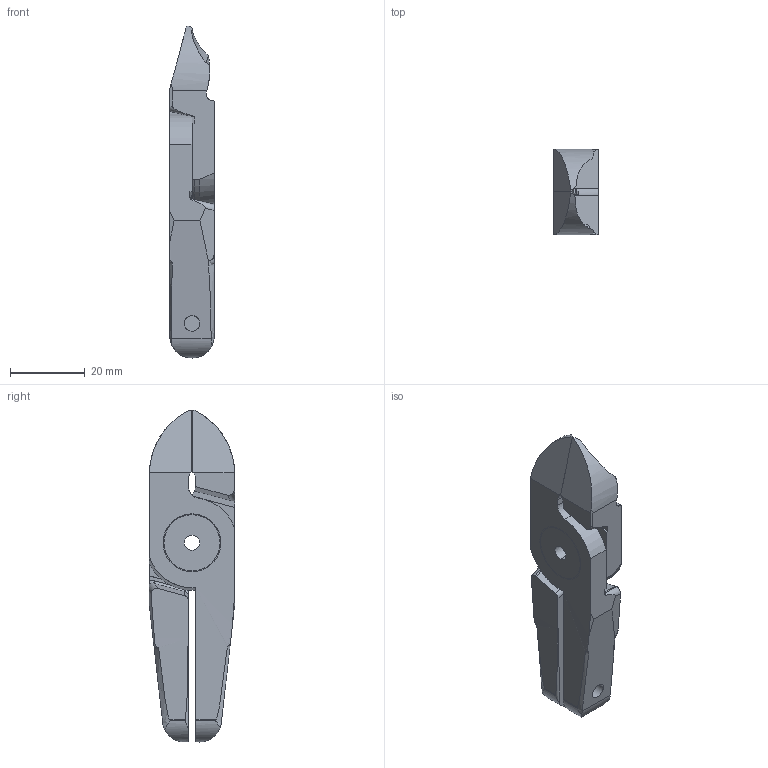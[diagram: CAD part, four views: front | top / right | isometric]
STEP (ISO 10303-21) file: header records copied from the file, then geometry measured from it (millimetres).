
FILE_DESCRIPTION (( 'STEP AP214' ), '1' );
FILE_NAME ('1004.STEP', '2012-03-27T19:07:01', ( 'User' ), ( 'EMI' ), 'SwSTEP 2.0', 'SolidWorks 2009', '' );
FILE_SCHEMA (( 'AUTOMOTIVE_DESIGN' ));
Length unit declared in the file: millimetre
Products named in the file (1): 1004
Bounding box: 12.06 x 22.86 x 88.9 mm (x, y, z)
Volume: 15484.7 mm3; surface area: 9020.7 mm2
Topology: 3 solids, 3 shells, 167 faces, 457 edges, 294 vertices
Faces by surface type: cylinder 66, plane 56, cone 24, bspline 19, torus 2
Entity records: 7873 total; most frequent: CARTESIAN_POINT 3973, ORIENTED_EDGE 906, DIRECTION 684, EDGE_CURVE 453, VERTEX_POINT 294, AXIS2_PLACEMENT_3D 238, VECTOR 208, LINE 208
